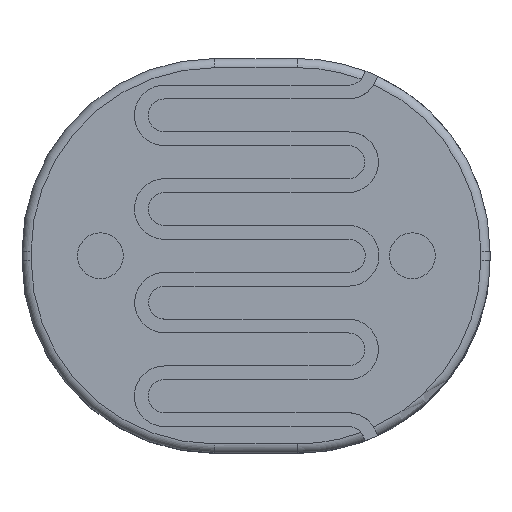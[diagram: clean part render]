
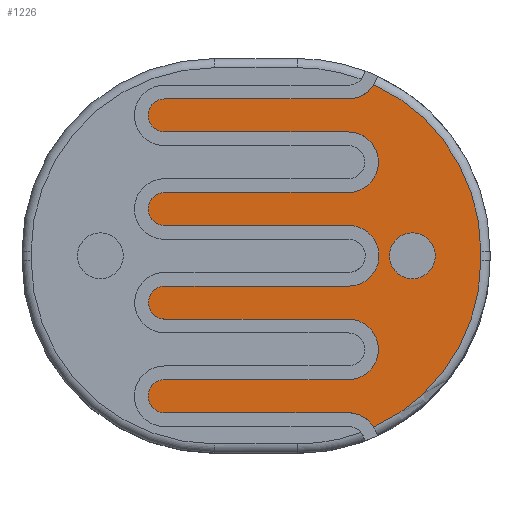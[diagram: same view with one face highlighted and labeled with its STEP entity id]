
A CAD part, top view. The second image highlights one B-rep face of the part: STEP entity #1226.
In plain terms, the highlighted planar face has unit normal (0, 0, 1).
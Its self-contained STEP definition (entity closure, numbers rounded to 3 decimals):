
#43=PLANE('',#1595);
#91=LINE('',#2230,#179);
#95=LINE('',#2253,#183);
#98=LINE('',#2261,#186);
#101=LINE('',#2269,#189);
#104=LINE('',#2277,#192);
#107=LINE('',#2285,#195);
#110=LINE('',#2293,#198);
#113=LINE('',#2301,#201);
#116=LINE('',#2309,#204);
#179=VECTOR('',#1804,1000.);
#183=VECTOR('',#1820,1000.);
#186=VECTOR('',#1829,1000.);
#189=VECTOR('',#1838,1000.);
#192=VECTOR('',#1847,1000.);
#195=VECTOR('',#1856,1000.);
#198=VECTOR('',#1865,1000.);
#201=VECTOR('',#1874,1000.);
#204=VECTOR('',#1883,1000.);
#252=CIRCLE('',#1519,2.);
#277=CIRCLE('',#1554,0.33);
#278=CIRCLE('',#1557,0.18);
#279=CIRCLE('',#1560,0.33);
#280=CIRCLE('',#1563,0.18);
#281=CIRCLE('',#1566,0.33);
#282=CIRCLE('',#1569,0.18);
#283=CIRCLE('',#1572,0.33);
#284=CIRCLE('',#1575,0.18);
#285=CIRCLE('',#1578,0.33);
#286=CIRCLE('',#1596,2.);
#287=CIRCLE('',#1597,0.25);
#560=ORIENTED_EDGE('',*,*,#754,.T.);
#561=ORIENTED_EDGE('',*,*,#756,.F.);
#562=ORIENTED_EDGE('',*,*,#758,.T.);
#563=ORIENTED_EDGE('',*,*,#760,.T.);
#564=ORIENTED_EDGE('',*,*,#762,.T.);
#565=ORIENTED_EDGE('',*,*,#764,.F.);
#566=ORIENTED_EDGE('',*,*,#766,.T.);
#567=ORIENTED_EDGE('',*,*,#768,.T.);
#568=ORIENTED_EDGE('',*,*,#770,.T.);
#569=ORIENTED_EDGE('',*,*,#772,.F.);
#570=ORIENTED_EDGE('',*,*,#774,.T.);
#571=ORIENTED_EDGE('',*,*,#776,.T.);
#572=ORIENTED_EDGE('',*,*,#778,.T.);
#573=ORIENTED_EDGE('',*,*,#780,.F.);
#574=ORIENTED_EDGE('',*,*,#782,.T.);
#575=ORIENTED_EDGE('',*,*,#783,.T.);
#576=ORIENTED_EDGE('',*,*,#801,.T.);
#577=ORIENTED_EDGE('',*,*,#745,.T.);
#578=ORIENTED_EDGE('',*,*,#704,.T.);
#579=ORIENTED_EDGE('',*,*,#751,.T.);
#580=ORIENTED_EDGE('',*,*,#802,.F.);
#704=EDGE_CURVE('',#871,#872,#252,.T.);
#745=EDGE_CURVE('',#906,#871,#91,.T.);
#751=EDGE_CURVE('',#872,#909,#277,.T.);
#754=EDGE_CURVE('',#909,#910,#95,.T.);
#756=EDGE_CURVE('',#911,#910,#278,.T.);
#758=EDGE_CURVE('',#911,#912,#98,.F.);
#760=EDGE_CURVE('',#912,#913,#279,.T.);
#762=EDGE_CURVE('',#913,#914,#101,.T.);
#764=EDGE_CURVE('',#915,#914,#280,.T.);
#766=EDGE_CURVE('',#915,#916,#104,.F.);
#768=EDGE_CURVE('',#916,#917,#281,.T.);
#770=EDGE_CURVE('',#917,#918,#107,.T.);
#772=EDGE_CURVE('',#919,#918,#282,.T.);
#774=EDGE_CURVE('',#919,#920,#110,.F.);
#776=EDGE_CURVE('',#920,#921,#283,.T.);
#778=EDGE_CURVE('',#921,#922,#113,.T.);
#780=EDGE_CURVE('',#923,#922,#284,.T.);
#782=EDGE_CURVE('',#923,#924,#116,.F.);
#783=EDGE_CURVE('',#924,#925,#285,.T.);
#801=EDGE_CURVE('',#925,#906,#286,.T.);
#802=EDGE_CURVE('',#926,#926,#287,.T.);
#871=VERTEX_POINT('',#2139);
#872=VERTEX_POINT('',#2144);
#906=VERTEX_POINT('',#2231);
#909=VERTEX_POINT('',#2248);
#910=VERTEX_POINT('',#2252);
#911=VERTEX_POINT('',#2256);
#912=VERTEX_POINT('',#2260);
#913=VERTEX_POINT('',#2264);
#914=VERTEX_POINT('',#2268);
#915=VERTEX_POINT('',#2272);
#916=VERTEX_POINT('',#2276);
#917=VERTEX_POINT('',#2280);
#918=VERTEX_POINT('',#2284);
#919=VERTEX_POINT('',#2288);
#920=VERTEX_POINT('',#2292);
#921=VERTEX_POINT('',#2296);
#922=VERTEX_POINT('',#2300);
#923=VERTEX_POINT('',#2304);
#924=VERTEX_POINT('',#2308);
#925=VERTEX_POINT('',#2312);
#926=VERTEX_POINT('',#2355);
#998=EDGE_LOOP('',(#560,#561,#562,#563,#564,#565,#566,#567,#568,#569,#570,
#571,#572,#573,#574,#575,#576,#577,#578,#579));
#999=EDGE_LOOP('',(#580));
#1078=FACE_BOUND('',#998,.T.);
#1079=FACE_BOUND('',#999,.T.);
#1226=ADVANCED_FACE('',(#1078,#1079),#43,.F.);
#1519=AXIS2_PLACEMENT_3D('',#2145,#1725,#1726);
#1554=AXIS2_PLACEMENT_3D('',#2247,#1814,#1815);
#1557=AXIS2_PLACEMENT_3D('',#2257,#1824,#1825);
#1560=AXIS2_PLACEMENT_3D('',#2265,#1833,#1834);
#1563=AXIS2_PLACEMENT_3D('',#2273,#1842,#1843);
#1566=AXIS2_PLACEMENT_3D('',#2281,#1851,#1852);
#1569=AXIS2_PLACEMENT_3D('',#2289,#1860,#1861);
#1572=AXIS2_PLACEMENT_3D('',#2297,#1869,#1870);
#1575=AXIS2_PLACEMENT_3D('',#2305,#1878,#1879);
#1578=AXIS2_PLACEMENT_3D('',#2311,#1886,#1887);
#1595=AXIS2_PLACEMENT_3D('',#2352,#1935,#1936);
#1596=AXIS2_PLACEMENT_3D('',#2353,#1937,#1938);
#1597=AXIS2_PLACEMENT_3D('',#2354,#1939,#1940);
#1725=DIRECTION('',(0.,0.,1.));
#1726=DIRECTION('',(1.,0.,0.));
#1804=DIRECTION('',(0.,1.,0.));
#1814=DIRECTION('',(0.,0.,-1.));
#1815=DIRECTION('',(-1.,0.,0.));
#1820=DIRECTION('',(-1.,0.,0.));
#1824=DIRECTION('',(0.,0.,-1.));
#1825=DIRECTION('',(-1.,0.,0.));
#1829=DIRECTION('',(-1.,0.,0.));
#1833=DIRECTION('',(0.,0.,-1.));
#1834=DIRECTION('',(-1.,0.,0.));
#1838=DIRECTION('',(-1.,0.,0.));
#1842=DIRECTION('',(0.,0.,-1.));
#1843=DIRECTION('',(-1.,0.,0.));
#1847=DIRECTION('',(-1.,0.,0.));
#1851=DIRECTION('',(0.,0.,-1.));
#1852=DIRECTION('',(-1.,0.,0.));
#1856=DIRECTION('',(-1.,0.,0.));
#1860=DIRECTION('',(0.,0.,-1.));
#1861=DIRECTION('',(-1.,0.,0.));
#1865=DIRECTION('',(-1.,0.,0.));
#1869=DIRECTION('',(0.,0.,-1.));
#1870=DIRECTION('',(-1.,0.,0.));
#1874=DIRECTION('',(-1.,0.,0.));
#1878=DIRECTION('',(0.,0.,-1.));
#1879=DIRECTION('',(-1.,0.,0.));
#1883=DIRECTION('',(-1.,0.,0.));
#1886=DIRECTION('',(0.,0.,-1.));
#1887=DIRECTION('',(-1.,0.,0.));
#1935=DIRECTION('',(0.,0.,-1.));
#1936=DIRECTION('',(-1.,0.,0.));
#1937=DIRECTION('',(0.,0.,1.));
#1938=DIRECTION('',(1.,0.,0.));
#1939=DIRECTION('',(0.,0.,1.));
#1940=DIRECTION('',(1.,0.,0.));
#2139=CARTESIAN_POINT('',(4.146,0.05,6.4));
#2144=CARTESIAN_POINT('',(2.981,1.867,6.4));
#2145=CARTESIAN_POINT('',(2.146,0.05,6.4));
#2230=CARTESIAN_POINT('',(4.146,0.,6.4));
#2231=CARTESIAN_POINT('',(4.146,-0.05,6.4));
#2247=CARTESIAN_POINT('',(2.7,2.04,6.4));
#2248=CARTESIAN_POINT('',(2.7,1.71,6.4));
#2252=CARTESIAN_POINT('',(0.7,1.71,6.4));
#2253=CARTESIAN_POINT('',(1.696,1.71,6.4));
#2256=CARTESIAN_POINT('',(0.7,1.35,6.4));
#2257=CARTESIAN_POINT('',(0.7,1.53,6.4));
#2260=CARTESIAN_POINT('',(2.7,1.35,6.4));
#2261=CARTESIAN_POINT('',(1.696,1.35,6.4));
#2264=CARTESIAN_POINT('',(2.7,0.69,6.4));
#2265=CARTESIAN_POINT('',(2.7,1.02,6.4));
#2268=CARTESIAN_POINT('',(0.7,0.69,6.4));
#2269=CARTESIAN_POINT('',(1.696,0.69,6.4));
#2272=CARTESIAN_POINT('',(0.7,0.33,6.4));
#2273=CARTESIAN_POINT('',(0.7,0.51,6.4));
#2276=CARTESIAN_POINT('',(2.707,0.33,6.4));
#2277=CARTESIAN_POINT('',(1.696,0.33,6.4));
#2280=CARTESIAN_POINT('',(2.703,-0.33,6.4));
#2281=CARTESIAN_POINT('',(2.707,0.,6.4));
#2284=CARTESIAN_POINT('',(0.703,-0.33,6.4));
#2285=CARTESIAN_POINT('',(1.696,-0.33,6.4));
#2288=CARTESIAN_POINT('',(0.703,-0.69,6.4));
#2289=CARTESIAN_POINT('',(0.703,-0.51,6.4));
#2292=CARTESIAN_POINT('',(2.7,-0.69,6.4));
#2293=CARTESIAN_POINT('',(1.696,-0.69,6.4));
#2296=CARTESIAN_POINT('',(2.7,-1.35,6.4));
#2297=CARTESIAN_POINT('',(2.7,-1.02,6.4));
#2300=CARTESIAN_POINT('',(0.7,-1.35,6.4));
#2301=CARTESIAN_POINT('',(1.696,-1.35,6.4));
#2304=CARTESIAN_POINT('',(0.7,-1.71,6.4));
#2305=CARTESIAN_POINT('',(0.7,-1.53,6.4));
#2308=CARTESIAN_POINT('',(2.7,-1.71,6.4));
#2309=CARTESIAN_POINT('',(1.696,-1.71,6.4));
#2311=CARTESIAN_POINT('',(2.7,-2.04,6.4));
#2312=CARTESIAN_POINT('',(2.981,-1.867,6.4));
#2352=CARTESIAN_POINT('',(1.696,0.,6.4));
#2353=CARTESIAN_POINT('',(2.146,-0.05,6.4));
#2354=CARTESIAN_POINT('',(3.4,0.,6.4));
#2355=CARTESIAN_POINT('',(3.65,0.,6.4));
